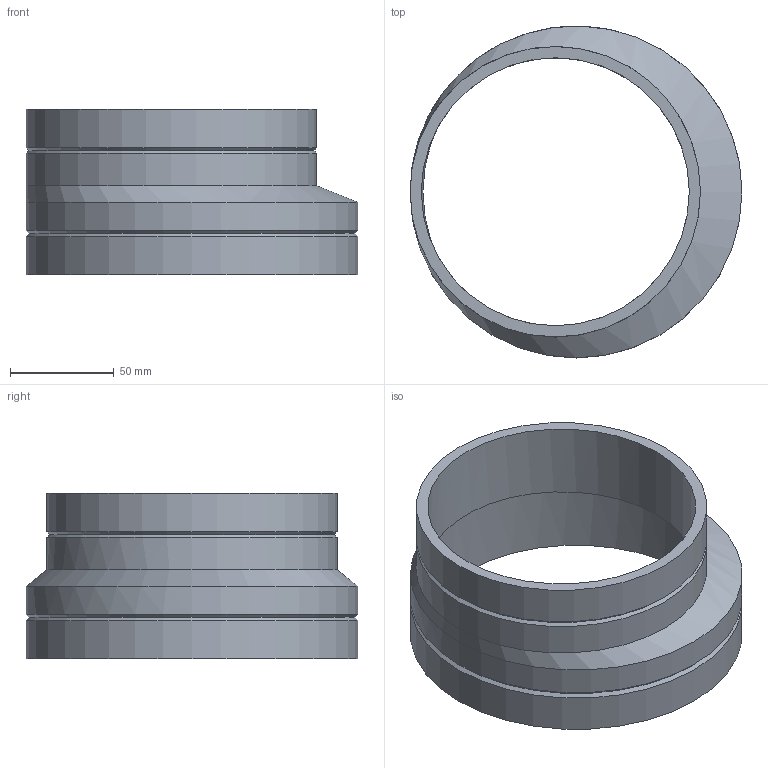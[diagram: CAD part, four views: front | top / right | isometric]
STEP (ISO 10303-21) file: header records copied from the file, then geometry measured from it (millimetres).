
FILE_DESCRIPTION(/* description */ (''),/* implementation_level */ '2;1');
FILE_NAME(/* name */ 'Z:\Geberit\Export\NewStep\369591.stp',/* time_stamp */ '2014-04-02T08:03:04+02:00',/* author */ ('nelson'),/* organization */ (''),/* preprocessor_version */ 'ST-DEVELOPER v15.2',/* originating_system */ 'Autodesk Inventor 2014',/* authorisation */ '');
FILE_SCHEMA (('AUTOMOTIVE_DESIGN { 1 0 10303 214 3 1 1 }'));
Length unit declared in the file: millimetre
Products named in the file (1): 369591
Bounding box: 160 x 160 x 80 mm (x, y, z)
Volume: 208257.7 mm3; surface area: 83764.4 mm2
Topology: 1 solids, 1 shells, 14 faces, 38 edges, 26 vertices
Faces by surface type: cylinder 6, cone 4, bspline 2, plane 2
Full cylindrical faces by diameter (mm): 129.2 x1, 140 x2, 147.6 x1, 160 x2
Entity records: 417 total; most frequent: CARTESIAN_POINT 93, DIRECTION 66, ORIENTED_EDGE 44, AXIS2_PLACEMENT_3D 33, EDGE_LOOP 26, EDGE_CURVE 22, CIRCLE 20, VERTEX_POINT 20
